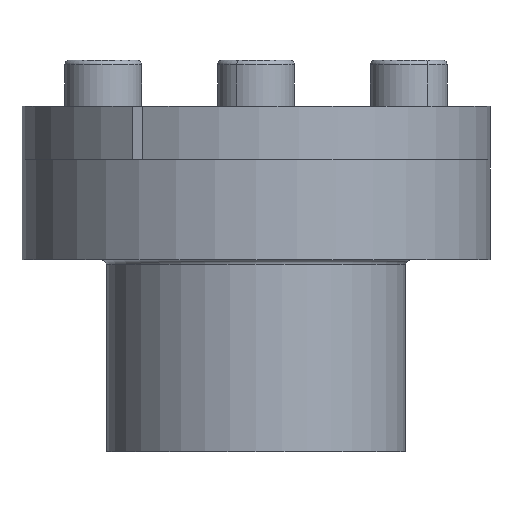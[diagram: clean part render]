
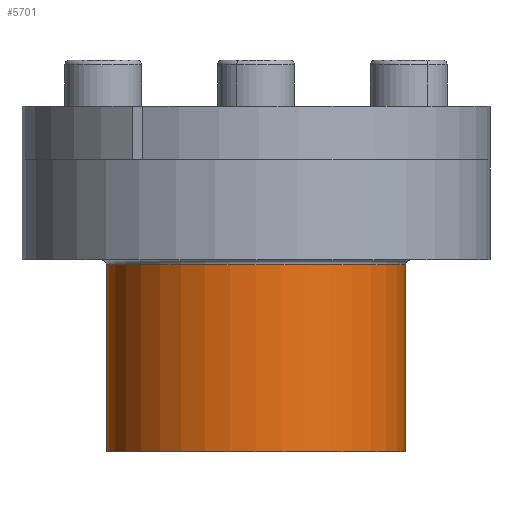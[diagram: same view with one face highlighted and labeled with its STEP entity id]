
A CAD part, front view. The second image highlights one B-rep face of the part: STEP entity #5701.
In plain terms, the highlighted cylindrical face has radius 19.5 mm (diameter 39 mm), a partial arc.
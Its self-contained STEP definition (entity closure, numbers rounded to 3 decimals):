
#401 = DIRECTION ( 'NONE',  ( 0., 0., -1. ) ) ;
#425 = DIRECTION ( 'NONE',  ( 0., 0., -1. ) ) ;
#465 = VECTOR ( 'NONE', #3186, 1000. ) ;
#650 = DIRECTION ( 'NONE',  ( 0., 0., -1. ) ) ;
#844 = CARTESIAN_POINT ( 'NONE',  ( -19.5, 0., -33. ) ) ;
#897 = ORIENTED_EDGE ( 'NONE', *, *, #9578, .F. ) ;
#1234 = DIRECTION ( 'NONE',  ( -1., 0., 0. ) ) ;
#1246 = CARTESIAN_POINT ( 'NONE',  ( -19.5, 0., -8. ) ) ;
#1277 = EDGE_CURVE ( 'NONE', #3769, #9545, #2372, .T. ) ;
#2112 = VERTEX_POINT ( 'NONE', #9190 ) ;
#2372 = CIRCLE ( 'NONE', #3630, 19.5 ) ;
#2492 = LINE ( 'NONE', #3157, #465 ) ;
#2981 = FACE_OUTER_BOUND ( 'NONE', #8113, .T. ) ;
#3157 = CARTESIAN_POINT ( 'NONE',  ( 19.5, 0., -8. ) ) ;
#3186 = DIRECTION ( 'NONE',  ( 0., 0., -1. ) ) ;
#3630 = AXIS2_PLACEMENT_3D ( 'NONE', #5016, #425, #5807 ) ;
#3769 = VERTEX_POINT ( 'NONE', #5486 ) ;
#3983 = CARTESIAN_POINT ( 'NONE',  ( -19.5, 0., -8.6 ) ) ;
#4030 = ORIENTED_EDGE ( 'NONE', *, *, #9757, .T. ) ;
#4046 = CYLINDRICAL_SURFACE ( 'NONE', #6682, 19.5 ) ;
#4198 = EDGE_CURVE ( 'NONE', #2112, #5541, #8760, .T. ) ;
#4524 = ORIENTED_EDGE ( 'NONE', *, *, #1277, .F. ) ;
#4570 = LINE ( 'NONE', #1246, #6397 ) ;
#5016 = CARTESIAN_POINT ( 'NONE',  ( 0., 0., -33. ) ) ;
#5239 = CARTESIAN_POINT ( 'NONE',  ( 0., 0., -8.6 ) ) ;
#5486 = CARTESIAN_POINT ( 'NONE',  ( 19.5, 0., -33. ) ) ;
#5541 = VERTEX_POINT ( 'NONE', #3983 ) ;
#5701 = ADVANCED_FACE ( 'NONE', ( #2981 ), #4046, .T. ) ;
#5807 = DIRECTION ( 'NONE',  ( -1., 0., 0. ) ) ;
#6032 = DIRECTION ( 'NONE',  ( -1., 0., 0. ) ) ;
#6397 = VECTOR ( 'NONE', #7436, 1000. ) ;
#6682 = AXIS2_PLACEMENT_3D ( 'NONE', #7383, #401, #1234 ) ;
#7383 = CARTESIAN_POINT ( 'NONE',  ( 0., 0., -8. ) ) ;
#7436 = DIRECTION ( 'NONE',  ( 0., 0., -1. ) ) ;
#8075 = ORIENTED_EDGE ( 'NONE', *, *, #4198, .T. ) ;
#8113 = EDGE_LOOP ( 'NONE', ( #897, #8075, #4030, #4524 ) ) ;
#8324 = AXIS2_PLACEMENT_3D ( 'NONE', #5239, #650, #6032 ) ;
#8760 = CIRCLE ( 'NONE', #8324, 19.5 ) ;
#9190 = CARTESIAN_POINT ( 'NONE',  ( 19.5, 0., -8.6 ) ) ;
#9545 = VERTEX_POINT ( 'NONE', #844 ) ;
#9578 = EDGE_CURVE ( 'NONE', #2112, #3769, #2492, .T. ) ;
#9757 = EDGE_CURVE ( 'NONE', #5541, #9545, #4570, .T. ) ;
